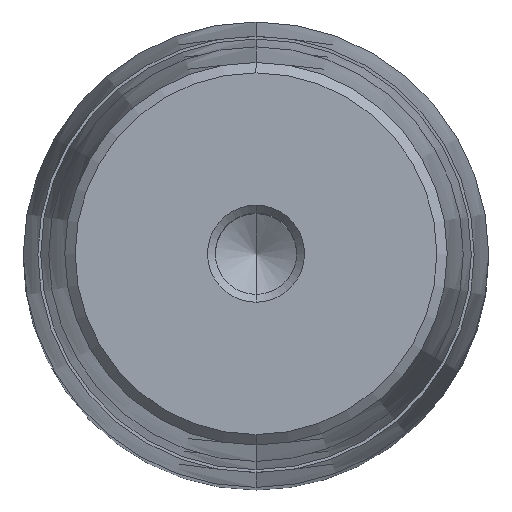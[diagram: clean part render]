
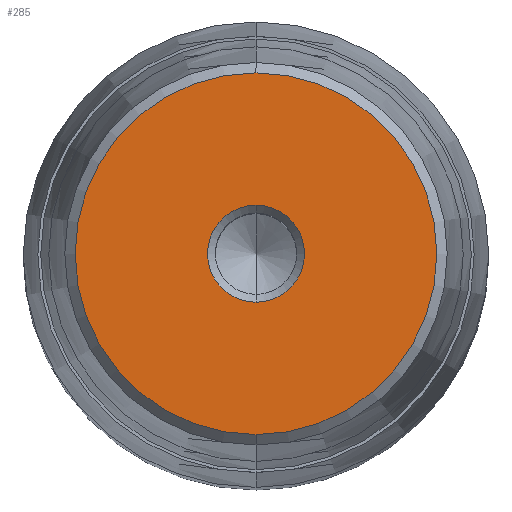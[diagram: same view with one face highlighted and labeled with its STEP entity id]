
A CAD part, top view. The second image highlights one B-rep face of the part: STEP entity #285.
In plain terms, the highlighted planar face has unit normal (0, 0, 1).
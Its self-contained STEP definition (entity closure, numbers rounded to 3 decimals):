
#164=CARTESIAN_POINT('Axis2P3D Location',(0.,0.,58.)) ;
#168=CARTESIAN_POINT('Vertex',(5.,0.,58.)) ;
#170=CARTESIAN_POINT('Vertex',(0.,-5.,58.)) ;
#173=CARTESIAN_POINT('Axis2P3D Location',(0.,0.,58.)) ;
#177=CARTESIAN_POINT('Vertex',(0.,5.,58.)) ;
#228=CARTESIAN_POINT('Axis2P3D Location',(0.,5.,58.)) ;
#233=CARTESIAN_POINT('Axis2P3D Location',(0.,0.,58.)) ;
#237=CARTESIAN_POINT('Vertex',(0.,18.65,58.)) ;
#239=CARTESIAN_POINT('Vertex',(18.65,0.,58.)) ;
#242=CARTESIAN_POINT('Axis2P3D Location',(0.,0.,58.)) ;
#246=CARTESIAN_POINT('Vertex',(-18.65,0.,58.)) ;
#249=CARTESIAN_POINT('Axis2P3D Location',(0.,0.,58.)) ;
#253=CARTESIAN_POINT('Vertex',(0.,-18.65,58.)) ;
#256=CARTESIAN_POINT('Axis2P3D Location',(0.,0.,58.)) ;
#267=CARTESIAN_POINT('Axis2P3D Location',(0.,0.,58.)) ;
#271=CARTESIAN_POINT('Vertex',(-5.,0.,58.)) ;
#274=CARTESIAN_POINT('Axis2P3D Location',(0.,0.,58.)) ;
#165=DIRECTION('Axis2P3D Direction',(-0.,0.,1.)) ;
#174=DIRECTION('Axis2P3D Direction',(-0.,0.,1.)) ;
#229=DIRECTION('Axis2P3D Direction',(0.,0.,-1.)) ;
#230=DIRECTION('Axis2P3D XDirection',(0.,1.,0.)) ;
#234=DIRECTION('Axis2P3D Direction',(0.,0.,-1.)) ;
#243=DIRECTION('Axis2P3D Direction',(0.,0.,-1.)) ;
#250=DIRECTION('Axis2P3D Direction',(0.,0.,-1.)) ;
#257=DIRECTION('Axis2P3D Direction',(0.,0.,-1.)) ;
#268=DIRECTION('Axis2P3D Direction',(0.,0.,-1.)) ;
#275=DIRECTION('Axis2P3D Direction',(0.,0.,-1.)) ;
#166=AXIS2_PLACEMENT_3D('Circle Axis2P3D',#164,#165,$) ;
#175=AXIS2_PLACEMENT_3D('Circle Axis2P3D',#173,#174,$) ;
#231=AXIS2_PLACEMENT_3D('Plane Axis2P3D',#228,#229,#230) ;
#235=AXIS2_PLACEMENT_3D('Circle Axis2P3D',#233,#234,$) ;
#244=AXIS2_PLACEMENT_3D('Circle Axis2P3D',#242,#243,$) ;
#251=AXIS2_PLACEMENT_3D('Circle Axis2P3D',#249,#250,$) ;
#258=AXIS2_PLACEMENT_3D('Circle Axis2P3D',#256,#257,$) ;
#269=AXIS2_PLACEMENT_3D('Circle Axis2P3D',#267,#268,$) ;
#276=AXIS2_PLACEMENT_3D('Circle Axis2P3D',#274,#275,$) ;
#262=ORIENTED_EDGE('',*,*,#241,.F.) ;
#263=ORIENTED_EDGE('',*,*,#248,.F.) ;
#264=ORIENTED_EDGE('',*,*,#255,.F.) ;
#265=ORIENTED_EDGE('',*,*,#260,.F.) ;
#280=ORIENTED_EDGE('',*,*,#172,.T.) ;
#281=ORIENTED_EDGE('',*,*,#273,.T.) ;
#282=ORIENTED_EDGE('',*,*,#278,.T.) ;
#283=ORIENTED_EDGE('',*,*,#179,.T.) ;
#284=FACE_BOUND('',#279,.T.) ;
#285=ADVANCED_FACE('722-48x180x220',(#266,#284),#232,.F.) ;
#167=CIRCLE('generated circle',#166,5.) ;
#176=CIRCLE('generated circle',#175,5.) ;
#236=CIRCLE('generated circle',#235,18.65) ;
#245=CIRCLE('generated circle',#244,18.65) ;
#252=CIRCLE('generated circle',#251,18.65) ;
#259=CIRCLE('generated circle',#258,18.65) ;
#270=CIRCLE('generated circle',#269,5.) ;
#277=CIRCLE('generated circle',#276,5.) ;
#172=EDGE_CURVE('',#169,#171,#167,.F.) ;
#179=EDGE_CURVE('',#178,#169,#176,.F.) ;
#241=EDGE_CURVE('',#238,#240,#236,.T.) ;
#248=EDGE_CURVE('',#247,#238,#245,.T.) ;
#255=EDGE_CURVE('',#254,#247,#252,.T.) ;
#260=EDGE_CURVE('',#240,#254,#259,.T.) ;
#273=EDGE_CURVE('',#171,#272,#270,.T.) ;
#278=EDGE_CURVE('',#272,#178,#277,.T.) ;
#261=EDGE_LOOP('',(#262,#263,#264,#265)) ;
#279=EDGE_LOOP('',(#280,#281,#282,#283)) ;
#266=FACE_OUTER_BOUND('',#261,.T.) ;
#232=PLANE('Plane',#231) ;
#169=VERTEX_POINT('',#168) ;
#171=VERTEX_POINT('',#170) ;
#178=VERTEX_POINT('',#177) ;
#238=VERTEX_POINT('',#237) ;
#240=VERTEX_POINT('',#239) ;
#247=VERTEX_POINT('',#246) ;
#254=VERTEX_POINT('',#253) ;
#272=VERTEX_POINT('',#271) ;
